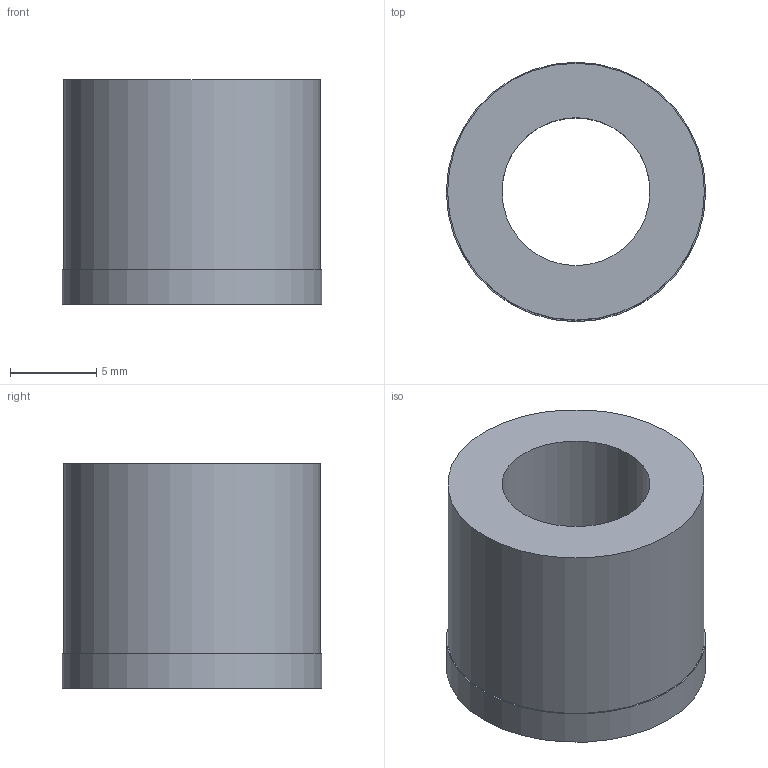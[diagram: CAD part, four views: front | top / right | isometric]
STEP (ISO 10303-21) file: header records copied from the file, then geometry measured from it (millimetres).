
FILE_DESCRIPTION (( 'STEP AP214' ), '1' );
FILE_NAME ('JF-20403-0005.STEP', '2018-04-18T15:21:31', ( '' ), ( '' ), 'SwSTEP 2.0', 'SolidWorks 2017', '' );
FILE_SCHEMA (( 'AUTOMOTIVE_DESIGN' ));
Length unit declared in the file: millimetre
Products named in the file (1): JF-20403-0005
Bounding box: 15 x 15 x 13 mm (x, y, z)
Volume: 1512.1 mm3; surface area: 1195.4 mm2
Topology: 1 solids, 1 shells, 10 faces, 17 edges, 11 vertices
Faces by surface type: cylinder 4, plane 4, cone 2
Full cylindrical faces by diameter (mm): 8.556 x1, 10.128 x1, 14.854 x1, 15 x1
Entity records: 242 total; most frequent: DIRECTION 42, CARTESIAN_POINT 31, AXIS2_PLACEMENT_3D 21, EDGE_LOOP 20, ORIENTED_EDGE 20, FACE_OUTER_BOUND 14, VERTEX_POINT 10, CIRCLE 10
